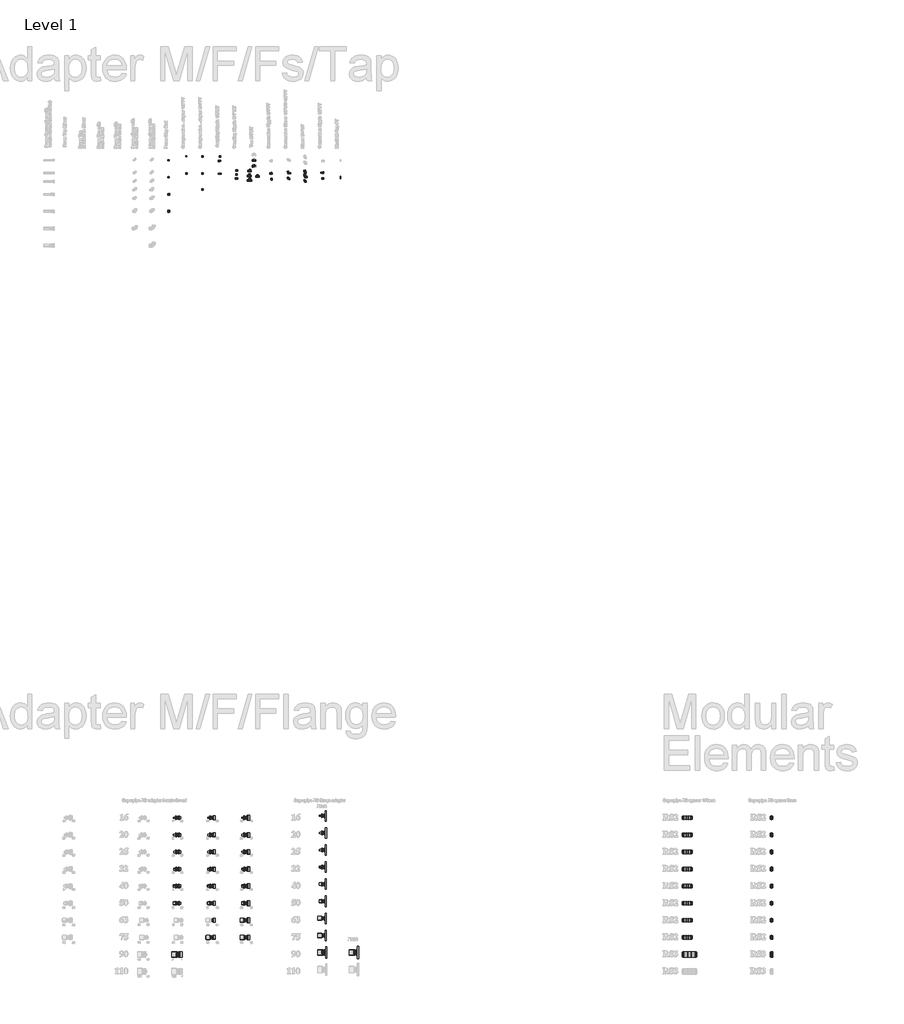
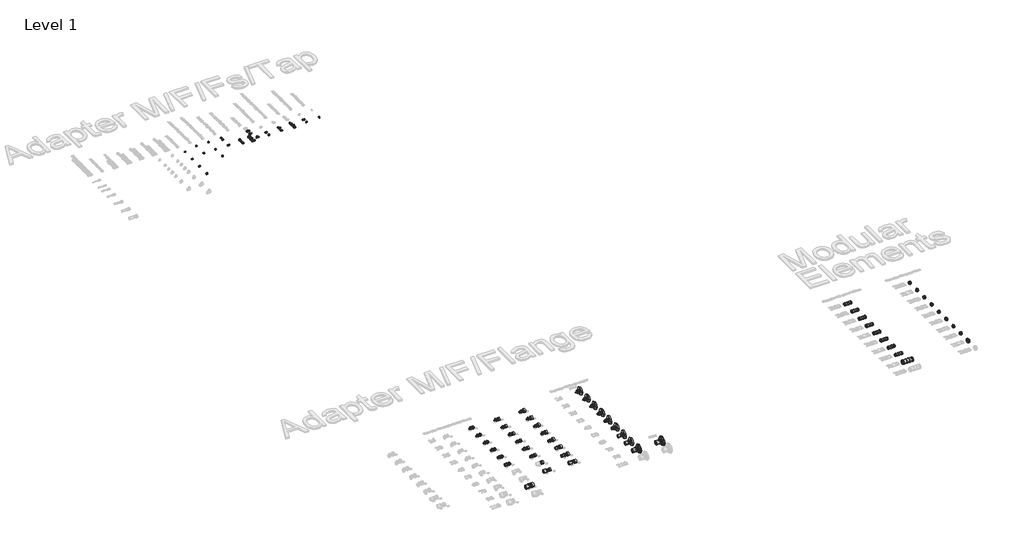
# One storey, part 6 of 57: 132 pipe fittings.
"""IFC4 building model written with IfcOpenShell, lengths in millimetres."""

from ifc_helpers import new_model, si_unit, origin, place, context, project, spatial, transform, mapped, element, save
from components import pipe_fitting_4a88b6a6, pipe_fitting_da245ea1, pipe_fitting_d80ff238, pipe_fitting_efbe42bf, pipe_fitting_8efa302d, pipe_fitting_62024e3c, pipe_fitting_ba7d6cd7, pipe_fitting_831a4182, pipe_fitting_687f7d2e, pipe_fitting_fd43bd29, pipe_fitting_230b2432, pipe_fitting_2b9a29ce, pipe_fitting_d8af90f1, pipe_fitting_8ddd92a3, pipe_fitting_2b53eb9e, pipe_fitting_a4cde8ab, pipe_fitting_0ffa7dfd, manifold_cap_ft_2143a354, rs_adapter_b4bbd465, rs_adapter_f82712ed, rs_adapter_ef84fdb0, rs_adapter_c6cd646c, rs_adapter_ed761ce0, rs_adapter_634e7d73, rs_adapter_fc67200b, rs_adapter_b700a1d7, rs_adapter_1ad0a11d, rs_female_adapter_be3e60a6, rs_female_adapter_9108f48d, rs_female_adapter_c31f11b0, rs_female_adapter_dce81887, rs_flange_a0c34e24, rs_flange_74e88712, rs_flange_21cca742, rs_spacer_67fe0fff, rs_spacer_eb34c34b, rs_spacer_c2a2605f, rs_spacer_aa593b7b, pipe_fitting_483da3ce

model = new_model("IFC4")

# Units and contexts
model_context = context("Model", 3, world=origin())
ifc_project = project(units=[si_unit("LENGTHUNIT", "METRE", prefix="MILLI")], contexts=[model_context])

# Site, building, storey
site = spatial("IfcSite", under=ifc_project)
building = spatial("IfcBuilding", under=site)
storey = spatial("IfcBuildingStorey", under=building, Name="Level 1", Elevation=27.3876384)

# Pipe fittings
placement = place(None, origin())
pipe_fitting_shape = pipe_fitting_4a88b6a6(model_context)
element("IfcPipeFitting", 1, ObjectType="SuperPipe_StopEnd_SPressPlus : SuperPipe_StopEnd_SPressPlus", at=placement, inside=storey, context=model_context, shape_type="MappedRepresentation", body=[
    mapped(pipe_fitting_shape, transform((32127.3746831, 29295.708829, 27.3876384), x_axis=(-1.0, 0.0, 0.0), y_axis=(0.0, -1.0, 0.0), z_axis=(0.0, 0.0, 1.0))),
])
pipe_fitting_2_shape = pipe_fitting_da245ea1(model_context)
element("IfcPipeFitting", 2, ObjectType="SuperPipe_StopEnd_SPressPlus : SuperPipe_StopEnd_SPressPlus", at=placement, inside=storey, context=model_context, shape_type="MappedRepresentation", body=[
    mapped(pipe_fitting_2_shape, transform((32127.3746831, 29595.708829, 27.3876384), x_axis=(-1.0, 0.0, 0.0), y_axis=(0.0, -1.0, 0.0), z_axis=(0.0, 0.0, 1.0))),
])
pipe_fitting_3_shape = pipe_fitting_d80ff238(model_context)
element("IfcPipeFitting", 3, ObjectType="SuperPipe_StopEnd_SPressPlus : SuperPipe_StopEnd_SPressPlus", at=placement, inside=storey, context=model_context, shape_type="MappedRepresentation", body=[
    mapped(pipe_fitting_3_shape, transform((32130.8746831, 29895.708829, 27.3876384), x_axis=(-1.0, 0.0, 0.0), y_axis=(0.0, -1.0, 0.0), z_axis=(0.0, 0.0, 1.0))),
])
pipe_fitting_4_shape = pipe_fitting_efbe42bf(model_context)
element("IfcPipeFitting", 4, ObjectType="SuperPipe_StopEnd_SPressPlus : SuperPipe_StopEnd_SPressPlus", at=placement, inside=storey, context=model_context, shape_type="MappedRepresentation", body=[
    mapped(pipe_fitting_4_shape, transform((32131.3746831, 30195.708829, 27.3876384), x_axis=(-1.0, 0.0, 0.0), y_axis=(0.0, -1.0, 0.0), z_axis=(0.0, 0.0, 1.0))),
])
pipe_fitting_5_shape = pipe_fitting_8efa302d(model_context)
element("IfcPipeFitting", 5, ObjectType="Coupling Nipple 1/2\"MT : Superpipe Coupling Nipple - 1/2\"MT-1/2\"MT", at=placement, inside=storey, context=model_context, shape_type="MappedRepresentation", body=[
    mapped(pipe_fitting_5_shape, transform((33041.8041997, 30260.0431886, 27.3876384), x_axis=(1.0, 0.0, 0.0), y_axis=(0.0, 1.0, 0.0), z_axis=(0.0, 0.0, 1.0))),
])
pipe_fitting_6_shape = pipe_fitting_62024e3c(model_context)
element("IfcPipeFitting", 6, ObjectType="Coupling Nipple 3/4\"MT : Superpipe Coupling Nipple - 3/4\"MT-3/4\"MT", at=placement, inside=storey, context=model_context, shape_type="MappedRepresentation", body=[
    mapped(pipe_fitting_6_shape, transform((33335.3160951, 29942.8987205, 27.3876384), x_axis=(1.0, 0.0, 0.0), y_axis=(0.0, 1.0, 0.0), z_axis=(0.0, 0.0, 1.0))),
])
element("IfcPipeFitting", 7, ObjectType="Coupling Nipple 1/2\"MT : Superpipe Coupling Nipple - 16-1/2\"MT", at=placement, inside=storey, context=model_context, shape_type="MappedRepresentation", body=[
    mapped(pipe_fitting_5_shape, transform((33041.8041997, 30183.7870562, 27.3876384), x_axis=(1.0, 0.0, 0.0), y_axis=(0.0, 0.0, -1.0), z_axis=(0.0, 1.0, 0.0))),
])
element("IfcPipeFitting", 8, ObjectType="Coupling Nipple 1/2\"MT : Superpipe Coupling Nipple - 20-1/2\"MT", at=placement, inside=storey, context=model_context, shape_type="MappedRepresentation", body=[
    mapped(pipe_fitting_5_shape, transform((33050.0023834, 29956.5969982, 27.3876384), x_axis=(1.0, 0.0, 0.0), y_axis=(0.0, 1.0, 0.0), z_axis=(0.0, 0.0, 1.0))),
])
element("IfcPipeFitting", 9, ObjectType="Coupling Nipple 3/4\"MT : Superpipe Coupling Nipple - 16-3/4\"MT", at=placement, inside=storey, context=model_context, shape_type="MappedRepresentation", body=[
    mapped(pipe_fitting_6_shape, transform((33343.4184031, 30011.9125505, 27.3876384), x_axis=(1.0, 0.0, 0.0), y_axis=(0.0, 1.0, 0.0), z_axis=(0.0, 0.0, 1.0))),
])
element("IfcPipeFitting", 10, ObjectType="Coupling Nipple 3/4\"MT : Superpipe Coupling Nipple - 20-3/4\"MT", at=placement, inside=storey, context=model_context, shape_type="MappedRepresentation", body=[
    mapped(pipe_fitting_6_shape, transform((33342.5109629, 29873.890947, 27.3876384), x_axis=(1.0, 0.0, 0.0), y_axis=(0.0, 1.0, 0.0), z_axis=(0.0, 0.0, 1.0))),
])
pipe_fitting_7_shape = pipe_fitting_ba7d6cd7(model_context)
element("IfcPipeFitting", 11, ObjectType="Conversion Nipple 3/4\"FT : Superpipe Conversion Nipple - 3/4\"MT-3/4\"FT", at=placement, inside=storey, context=model_context, shape_type="MappedRepresentation", body=[
    mapped(pipe_fitting_7_shape, transform((33949.3518929, 29862.5546879, 27.3876384), x_axis=(1.0, 0.0, 0.0), y_axis=(0.0, 1.0, 0.0), z_axis=(0.0, 0.0, 1.0))),
])
element("IfcPipeFitting", 12, ObjectType="Conversion Nipple 3/4\"FT : Superpipe Conversion Nipple - 20-3/4\"FT", at=placement, inside=storey, context=model_context, shape_type="MappedRepresentation", body=[
    mapped(pipe_fitting_7_shape, transform((33949.3518929, 29962.5546879, 27.3876384), x_axis=(1.0, 0.0, 0.0), y_axis=(0.0, 1.0, 0.0), z_axis=(0.0, 0.0, 1.0))),
])
pipe_fitting_8_shape = pipe_fitting_831a4182(model_context)
element("IfcPipeFitting", 13, ObjectType="Conversion Elbow 1/2\"MT-1/2\"FT : Superpipe Conversion Elbow - 1/2\"MT-1/2\"FT", at=placement, inside=storey, context=model_context, shape_type="MappedRepresentation", body=[
    mapped(pipe_fitting_8_shape, transform((34240.1121716, 29865.0431886, 27.3876384), x_axis=(-1.0, 0.0, 0.0), y_axis=(0.0, 1.0000000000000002, 0.0), z_axis=(0.0, 0.0, -1.0000000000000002))),
])
element("IfcPipeFitting", 14, ObjectType="Conversion Elbow 1/2\"MT-1/2\"FT : Superpipe Conversion Elbow - 20-1/2\"FT", at=placement, inside=storey, context=model_context, shape_type="MappedRepresentation", body=[
    mapped(pipe_fitting_8_shape, transform((34240.1121716, 29965.0431886, 27.3876384), x_axis=(-1.0, 0.0, 0.0), y_axis=(0.0, 1.0000000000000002, 0.0), z_axis=(0.0, 0.0, -1.0000000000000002))),
])
pipe_fitting_9_shape = pipe_fitting_687f7d2e(model_context)
element("IfcPipeFitting", 15, ObjectType="Conversion Nipple 1/2\"FT : Superpipe Conversion Nipple - 1/2\"MT -1/2\"FT", at=placement, inside=storey, context=model_context, shape_type="MappedRepresentation", body=[
    mapped(pipe_fitting_9_shape, transform((34851.8746831, 29875.0431886, 27.3876384), x_axis=(1.0, 0.0, 0.0), y_axis=(0.0, 1.0, 0.0), z_axis=(0.0, 0.0, 1.0))),
])
element("IfcPipeFitting", 16, ObjectType="Conversion Nipple 1/2\"FT : Superpipe Conversion Nipple - 20-1/2\"FT", at=placement, inside=storey, context=model_context, shape_type="MappedRepresentation", body=[
    mapped(pipe_fitting_9_shape, transform((34851.8746831, 29975.0431886, 27.3876384), x_axis=(1.0, 0.0, 0.0), y_axis=(0.0, 1.0, 0.0), z_axis=(0.0, 0.0, 1.0))),
])
pipe_fitting_10_shape = pipe_fitting_fd43bd29(model_context)
element("IfcPipeFitting", 17, ObjectType="Compression Adapter 1/2\"FT : Superpipe Compression Adapter", at=placement, inside=storey, context=model_context, shape_type="MappedRepresentation", body=[
    mapped(pipe_fitting_10_shape, transform((32440.8650131, 30264.1922591, 27.3876384), x_axis=(1.0, 0.0, 0.0), y_axis=(0.0, 1.0, 0.0), z_axis=(0.0, 0.0, 1.0))),
])
element("IfcPipeFitting", 18, ObjectType="Compression Adapter 1/2\"FT : Superpipe Compression Adapter", at=placement, inside=storey, context=model_context, shape_type="MappedRepresentation", body=[
    mapped(pipe_fitting_10_shape, transform((33015.8041997, 30183.7870562, 27.3876384), x_axis=(1.0, 0.0, 0.0), y_axis=(0.0, 0.0, -1.0), z_axis=(0.0, 1.0, 0.0))),
])
pipe_fitting_11_shape = pipe_fitting_230b2432(model_context)
element("IfcPipeFitting", 19, ObjectType="Compression Adapter 1/2\"FT : Superpipe Compression Adapter", at=placement, inside=storey, context=model_context, shape_type="MappedRepresentation", body=[
    mapped(pipe_fitting_11_shape, transform((32440.8650131, 29960.0431886, 27.3876384), x_axis=(1.0, 0.0, 0.0), y_axis=(0.0, 1.0, 0.0), z_axis=(0.0, 0.0, 1.0))),
])
element("IfcPipeFitting", 20, ObjectType="Compression Adapter 1/2\"FT : Superpipe Compression Adapter", at=placement, inside=storey, context=model_context, shape_type="MappedRepresentation", body=[
    mapped(pipe_fitting_11_shape, transform((33017.0023834, 29956.5969982, 27.3876384), x_axis=(1.0, 0.0, 0.0), y_axis=(0.0, 1.0, 0.0), z_axis=(0.0, 0.0, 1.0))),
])
element("IfcPipeFitting", 21, ObjectType="Compression Adapter 1/2\"FT : Superpipe Compression Adapter", at=placement, inside=storey, context=model_context, shape_type="MappedRepresentation", body=[
    mapped(pipe_fitting_11_shape, transform((34285.1121716, 29965.0431886, 27.3876384), x_axis=(-1.0, 0.0, 0.0), y_axis=(0.0, 1.0000000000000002, 0.0), z_axis=(0.0, 0.0, -1.0000000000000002))),
])
element("IfcPipeFitting", 22, ObjectType="Compression Adapter 1/2\"FT : Superpipe Compression Adapter", at=placement, inside=storey, context=model_context, shape_type="MappedRepresentation", body=[
    mapped(pipe_fitting_11_shape, transform((34816.6246831, 29975.0431886, 27.3876384), x_axis=(1.0, 0.0, 0.0), y_axis=(0.0, 1.0, 0.0), z_axis=(0.0, 0.0, 1.0))),
])
pipe_fitting_12_shape = pipe_fitting_2b9a29ce(model_context)
element("IfcPipeFitting", 23, ObjectType="Compression Adapter 3/4\"FT : Superpipe Compression Adapter", at=placement, inside=storey, context=model_context, shape_type="MappedRepresentation", body=[
    mapped(pipe_fitting_12_shape, transform((32723.8650131, 29679.1922591, 27.3876384), x_axis=(1.0, 0.0, 0.0), y_axis=(0.0, 1.0, 0.0), z_axis=(0.0, 0.0, 1.0))),
])
pipe_fitting_13_shape = pipe_fitting_d8af90f1(model_context)
element("IfcPipeFitting", 24, ObjectType="Compression Adapter 3/4\"FT : Superpipe Compression Adapter", at=placement, inside=storey, context=model_context, shape_type="MappedRepresentation", body=[
    mapped(pipe_fitting_13_shape, transform((32726.8746831, 30260.0431886, 27.3876384), x_axis=(1.0, 0.0, 0.0), y_axis=(0.0, 1.0, 0.0), z_axis=(0.0, 0.0, 1.0))),
])
pipe_fitting_14_shape = pipe_fitting_8ddd92a3(model_context)
element("IfcPipeFitting", 25, ObjectType="Compression Adapter 3/4\"FT : Superpipe Compression Adapter", at=placement, inside=storey, context=model_context, shape_type="MappedRepresentation", body=[
    mapped(pipe_fitting_14_shape, transform((33337.8277391, 29873.890947, 27.3876384), x_axis=(-1.0, 0.0, 0.0), y_axis=(0.0, -1.0, 0.0), z_axis=(0.0, 0.0, 1.0))),
])
element("IfcPipeFitting", 26, ObjectType="Compression Adapter 3/4\"FT : Superpipe Compression Adapter", at=placement, inside=storey, context=model_context, shape_type="MappedRepresentation", body=[
    mapped(pipe_fitting_14_shape, transform((33551.8160614, 30002.7497821, 27.3876384), x_axis=(-1.0, 0.0, 0.0), y_axis=(0.0, -1.0, 0.0), z_axis=(0.0, 0.0, 1.0))),
])
element("IfcPipeFitting", 27, ObjectType="Compression Adapter 3/4\"FT : Superpipe Compression Adapter", at=placement, inside=storey, context=model_context, shape_type="MappedRepresentation", body=[
    mapped(pipe_fitting_14_shape, transform((33547.9048223, 29917.7300897, 27.3876384), x_axis=(-1.0, 0.0, 0.0), y_axis=(0.0, -1.0, 0.0), z_axis=(0.0, 0.0, 1.0))),
])
element("IfcPipeFitting", 28, ObjectType="Compression Adapter 3/4\"FT : Superpipe Compression Adapter", at=placement, inside=storey, context=model_context, shape_type="MappedRepresentation", body=[
    mapped(pipe_fitting_14_shape, transform((33549.9490576, 29838.9596168, 27.3876384), x_axis=(-1.0, 0.0, 0.0), y_axis=(0.0, -1.0, 0.0), z_axis=(0.0, 0.0, 1.0))),
])
element("IfcPipeFitting", 29, ObjectType="Compression Adapter 3/4\"FT : Superpipe Compression Adapter", at=placement, inside=storey, context=model_context, shape_type="MappedRepresentation", body=[
    mapped(pipe_fitting_14_shape, transform((33941.3518929, 29962.5546879, 27.3876384), x_axis=(-1.0, 0.0, 0.0), y_axis=(0.0, -1.0, 0.0), z_axis=(0.0, 0.0, 1.0))),
])
pipe_fitting_15_shape = pipe_fitting_2b53eb9e(model_context)
element("IfcPipeFitting", 30, ObjectType="Compression Adapter 3/4\"FT : Superpipe Compression Adapter", at=placement, inside=storey, context=model_context, shape_type="MappedRepresentation", body=[
    mapped(pipe_fitting_15_shape, transform((33338.7351792, 30011.9125505, 27.3876384), x_axis=(-1.0, 0.0, 0.0), y_axis=(0.0, -1.0, 0.0), z_axis=(0.0, 0.0, 1.0))),
])
element("IfcPipeFitting", 31, ObjectType="Compression Adapter 3/4\"FT : Superpipe Compression Adapter", at=placement, inside=storey, context=model_context, shape_type="MappedRepresentation", body=[
    mapped(pipe_fitting_15_shape, transform((33628.4713412, 30189.9764499, 27.3876384), x_axis=(-1.0, 0.0, 0.0), y_axis=(0.0, -1.0, 0.0), z_axis=(0.0, 0.0, 1.0))),
])
element("IfcPipeFitting", 32, ObjectType="Compression Adapter 3/4\"FT : Superpipe Compression Adapter", at=placement, inside=storey, context=model_context, shape_type="MappedRepresentation", body=[
    mapped(pipe_fitting_15_shape, transform((33628.4713412, 30089.9764499, 27.3876384), x_axis=(-1.0, 0.0, 0.0), y_axis=(0.0, -1.0, 0.0), z_axis=(0.0, 0.0, 1.0))),
])
pipe_fitting_16_shape = pipe_fitting_a4cde8ab(model_context)
element("IfcPipeFitting", 33, ObjectType="Compression Adapter 3/4\"FT : Superpipe Compression Adapter", at=placement, inside=storey, context=model_context, shape_type="MappedRepresentation", body=[
    mapped(pipe_fitting_16_shape, transform((32723.8650131, 29960.0431886, 27.3876384), x_axis=(1.0, 0.0, 0.0), y_axis=(0.0, 1.0, 0.0), z_axis=(0.0, 0.0, 1.0))),
])
element("IfcPipeFitting", 34, ObjectType="Compression Adapter 3/4\"FT : Superpipe Compression Adapter", at=placement, inside=storey, context=model_context, shape_type="MappedRepresentation", body=[
    mapped(pipe_fitting_16_shape, transform((33563.5264183, 29933.1259138, 27.3876384), x_axis=(0.0, 1.0, 0.0), y_axis=(-1.0, 0.0, 0.0), z_axis=(0.0, 0.0, 1.0))),
])
element("IfcPipeFitting", 35, ObjectType="Compression Adapter 3/4\"FT : Superpipe Compression Adapter", at=placement, inside=storey, context=model_context, shape_type="MappedRepresentation", body=[
    mapped(pipe_fitting_16_shape, transform((33581.1922496, 29838.9596168, 27.3876384), x_axis=(1.0, 0.0, 0.0), y_axis=(0.0, 1.0, 0.0), z_axis=(0.0, 0.0, 1.0))),
])
element("IfcPipeFitting", 36, ObjectType="Compression Adapter 3/4\"FT : Superpipe Compression Adapter", at=placement, inside=storey, context=model_context, shape_type="MappedRepresentation", body=[
    mapped(pipe_fitting_16_shape, transform((33565.5706536, 29854.3554409, 27.3876384), x_axis=(0.0, 1.0, 0.0), y_axis=(-1.0, 0.0, 0.0), z_axis=(0.0, 0.0, 1.0))),
])
element("IfcPipeFitting", 37, ObjectType="Compression Adapter 3/4\"FT : Superpipe Compression Adapter", at=placement, inside=storey, context=model_context, shape_type="MappedRepresentation", body=[
    mapped(pipe_fitting_16_shape, transform((34531.8746831, 29995.0431886, 27.3876384), x_axis=(0.0, 1.0, 0.0), y_axis=(-1.0, 0.0, 0.0), z_axis=(0.0, 0.0, 1.0))),
])
element("IfcPipeFitting", 38, ObjectType="Compression Adapter 3/4\"FT : Superpipe Compression Adapter", at=placement, inside=storey, context=model_context, shape_type="MappedRepresentation", body=[
    mapped(pipe_fitting_16_shape, transform((34531.8746831, 29921.1316553, 27.3876384), x_axis=(0.0, 1.0, 0.0), y_axis=(-1.0, 0.0, 0.0), z_axis=(0.0, 0.0, 1.0))),
])
element("IfcPipeFitting", 39, ObjectType="Compression Adapter 3/4\"FT : Superpipe Compression Adapter", at=placement, inside=storey, context=model_context, shape_type="MappedRepresentation", body=[
    mapped(pipe_fitting_16_shape, transform((34551.8345617, 29901.1316553, 27.3876384), x_axis=(1.0, 0.0, 0.0), y_axis=(0.0, 1.0, 0.0), z_axis=(0.0, 0.0, 1.0))),
])
pipe_fitting_17_shape = pipe_fitting_0ffa7dfd(model_context)
element("IfcPipeFitting", 40, ObjectType="Elbow 3/4\" MT : Superpipe Elbow - 3/4\"MT-3/4\"MT", at=placement, inside=storey, context=model_context, shape_type="MappedRepresentation", body=[
    mapped(pipe_fitting_17_shape, transform((34531.8746831, 29822.2788614, 27.3876384), x_axis=(1.0, 0.0, 0.0), y_axis=(0.0, 1.0, 0.0), z_axis=(0.0, 0.0, 1.0))),
])
element("IfcPipeFitting", 41, ObjectType="Elbow 3/4\" MT : Superpipe Elbow - 20-3/4\"MT", at=placement, inside=storey, context=model_context, shape_type="MappedRepresentation", body=[
    mapped(pipe_fitting_17_shape, transform((34531.8746831, 29975.0431886, 27.3876384), x_axis=(1.0, 0.0, 0.0), y_axis=(0.0, 1.0, 0.0), z_axis=(0.0, 0.0, 1.0))),
])
element("IfcPipeFitting", 42, ObjectType="Elbow 3/4\" MT : Superpipe Elbow - 20-20", at=placement, inside=storey, context=model_context, shape_type="MappedRepresentation", body=[
    mapped(pipe_fitting_17_shape, transform((34531.8746831, 29901.1316553, 27.3876384), x_axis=(1.0, 0.0, 0.0), y_axis=(0.0, 1.0, 0.0), z_axis=(0.0, 0.0, 1.0))),
])
manifold_cap_ft_shape = manifold_cap_ft_2143a354(model_context)
element("IfcPipeFitting", 43, ObjectType="Manifold Cap FT : Superpipe Manifold Cap With Seal- 1\" FT", at=placement, inside=storey, context=model_context, shape_type="MappedRepresentation", body=[
    mapped(manifold_cap_ft_shape, transform((35151.8746831, 29890.0431886, 27.3876384), x_axis=(1.0, 0.0, 0.0), y_axis=(0.0, 1.0, 0.0), z_axis=(0.0, 0.0, 1.0))),
])
rs_adapter_shape = rs_adapter_b4bbd465(model_context)
element("IfcPipeFitting", 44, ObjectType="RS Adapter : Superpipe RS Press Adapter", at=placement, inside=storey, context=model_context, shape_type="MappedRepresentation", body=[
    mapped(rs_adapter_shape, transform((34850.1649783, 18681.0652943, 27.3876384), x_axis=(-1.0000000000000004, 0.0, 0.0), y_axis=(0.0, 1.0000000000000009, 0.0), z_axis=(0.0, 0.0, -1.0000000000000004))),
])
element("IfcPipeFitting", 45, ObjectType="RS Adapter : Superpipe RS Press Adapter", at=placement, inside=storey, context=model_context, shape_type="MappedRepresentation", body=[
    mapped(rs_adapter_shape, transform((32288.6568613, 18646.8081159, 27.3876384), x_axis=(-1.0000000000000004, 0.0, 0.0), y_axis=(0.0, 1.0000000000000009, 0.0), z_axis=(0.0, 0.0, -1.0000000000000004))),
])
element("IfcPipeFitting", 46, ObjectType="RS Adapter : Superpipe RS Press Adapter", at=placement, inside=storey, context=model_context, shape_type="MappedRepresentation", body=[
    mapped(rs_adapter_shape, transform((32888.6568613, 18646.8081159, 27.3876384), x_axis=(-1.0000000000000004, 0.0, 0.0), y_axis=(0.0, 1.0000000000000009, 0.0), z_axis=(0.0, 0.0, -1.0000000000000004))),
])
element("IfcPipeFitting", 47, ObjectType="RS Adapter : Superpipe RS Press Adapter", at=placement, inside=storey, context=model_context, shape_type="MappedRepresentation", body=[
    mapped(rs_adapter_shape, transform((33488.6568613, 18646.8081159, 27.3876384), x_axis=(-1.0000000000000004, 0.0, 0.0), y_axis=(0.0, 1.0000000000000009, 0.0), z_axis=(0.0, 0.0, -1.0000000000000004))),
])
rs_adapter_2_shape = rs_adapter_f82712ed(model_context)
element("IfcPipeFitting", 48, ObjectType="RS Adapter : Superpipe RS Press Adapter", at=placement, inside=storey, context=model_context, shape_type="MappedRepresentation", body=[
    mapped(rs_adapter_2_shape, transform((34852.157769, 18381.0652943, 27.3876384), x_axis=(-1.0000000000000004, 0.0, 0.0), y_axis=(0.0, 1.0000000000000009, 0.0), z_axis=(0.0, 0.0, -1.0000000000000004))),
])
element("IfcPipeFitting", 49, ObjectType="RS Adapter : Superpipe RS Press Adapter", at=placement, inside=storey, context=model_context, shape_type="MappedRepresentation", body=[
    mapped(rs_adapter_2_shape, transform((32288.6568613, 18346.8081159, 27.3876384), x_axis=(-1.0000000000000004, 0.0, 0.0), y_axis=(0.0, 1.0000000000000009, 0.0), z_axis=(0.0, 0.0, -1.0000000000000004))),
])
element("IfcPipeFitting", 50, ObjectType="RS Adapter : Superpipe RS Press Adapter", at=placement, inside=storey, context=model_context, shape_type="MappedRepresentation", body=[
    mapped(rs_adapter_2_shape, transform((32888.6568613, 18346.8081159, 27.3876384), x_axis=(-1.0000000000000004, 0.0, 0.0), y_axis=(0.0, 1.0000000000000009, 0.0), z_axis=(0.0, 0.0, -1.0000000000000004))),
])
element("IfcPipeFitting", 51, ObjectType="RS Adapter : Superpipe RS Press Adapter", at=placement, inside=storey, context=model_context, shape_type="MappedRepresentation", body=[
    mapped(rs_adapter_2_shape, transform((33488.6568613, 18346.8081159, 27.3876384), x_axis=(-1.0000000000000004, 0.0, 0.0), y_axis=(0.0, 1.0000000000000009, 0.0), z_axis=(0.0, 0.0, -1.0000000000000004))),
])
rs_adapter_3_shape = rs_adapter_ef84fdb0(model_context)
element("IfcPipeFitting", 52, ObjectType="RS Adapter : Superpipe RS Press Adapter", at=placement, inside=storey, context=model_context, shape_type="MappedRepresentation", body=[
    mapped(rs_adapter_3_shape, transform((34850.1649783, 18081.0652943, 27.3876384), x_axis=(-1.0000000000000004, 0.0, 0.0), y_axis=(0.0, 1.0000000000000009, 0.0), z_axis=(0.0, 0.0, -1.0000000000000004))),
])
element("IfcPipeFitting", 53, ObjectType="RS Adapter : Superpipe RS Press Adapter", at=placement, inside=storey, context=model_context, shape_type="MappedRepresentation", body=[
    mapped(rs_adapter_3_shape, transform((32288.6568613, 18046.8081159, 27.3876384), x_axis=(-1.0000000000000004, 0.0, 0.0), y_axis=(0.0, 1.0000000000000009, 0.0), z_axis=(0.0, 0.0, -1.0000000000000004))),
])
element("IfcPipeFitting", 54, ObjectType="RS Adapter : Superpipe RS Press Adapter", at=placement, inside=storey, context=model_context, shape_type="MappedRepresentation", body=[
    mapped(rs_adapter_3_shape, transform((32888.6568613, 18046.8081159, 27.3876384), x_axis=(-1.0000000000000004, 0.0, 0.0), y_axis=(0.0, 1.0000000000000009, 0.0), z_axis=(0.0, 0.0, -1.0000000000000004))),
])
element("IfcPipeFitting", 55, ObjectType="RS Adapter : Superpipe RS Press Adapter", at=placement, inside=storey, context=model_context, shape_type="MappedRepresentation", body=[
    mapped(rs_adapter_3_shape, transform((33488.6568613, 18046.8081159, 27.3876384), x_axis=(-1.0000000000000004, 0.0, 0.0), y_axis=(0.0, 1.0000000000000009, 0.0), z_axis=(0.0, 0.0, -1.0000000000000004))),
])
rs_adapter_4_shape = rs_adapter_c6cd646c(model_context)
element("IfcPipeFitting", 56, ObjectType="RS Adapter : Superpipe RS Press Adapter", at=placement, inside=storey, context=model_context, shape_type="MappedRepresentation", body=[
    mapped(rs_adapter_4_shape, transform((32296.6568613, 16246.8081159, 27.3876384), x_axis=(-1.0000000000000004, 0.0, 0.0), y_axis=(0.0, 1.0000000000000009, 0.0), z_axis=(0.0, 0.0, -1.0000000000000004))),
])
element("IfcPipeFitting", 57, ObjectType="RS Adapter : Superpipe RS Press Adapter", at=placement, inside=storey, context=model_context, shape_type="MappedRepresentation", body=[
    mapped(rs_adapter_4_shape, transform((34858.1649783, 16281.0652943, 27.3876384), x_axis=(-1.0000000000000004, 0.0, 0.0), y_axis=(0.0, 1.0000000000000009, 0.0), z_axis=(0.0, 0.0, -1.0000000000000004))),
])
element("IfcPipeFitting", 58, ObjectType="RS Adapter : Superpipe RS Press Adapter", at=placement, inside=storey, context=model_context, shape_type="MappedRepresentation", body=[
    mapped(rs_adapter_4_shape, transform((35414.1300252, 16281.0652943, 27.3876384), x_axis=(-1.0000000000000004, 0.0, 0.0), y_axis=(0.0, 1.0000000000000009, 0.0), z_axis=(0.0, 0.0, -1.0000000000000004))),
])
rs_adapter_5_shape = rs_adapter_ed761ce0(model_context)
element("IfcPipeFitting", 59, ObjectType="RS Adapter : Superpipe RS Press Adapter", at=placement, inside=storey, context=model_context, shape_type="MappedRepresentation", body=[
    mapped(rs_adapter_5_shape, transform((34850.1649783, 17781.0652943, 27.3876384), x_axis=(-1.0000000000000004, 0.0, 0.0), y_axis=(0.0, 1.0000000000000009, 0.0), z_axis=(0.0, 0.0, -1.0000000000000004))),
])
element("IfcPipeFitting", 60, ObjectType="RS Adapter : Superpipe RS Press Adapter", at=placement, inside=storey, context=model_context, shape_type="MappedRepresentation", body=[
    mapped(rs_adapter_5_shape, transform((32288.6568613, 17746.8081159, 27.3876384), x_axis=(-1.0000000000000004, 0.0, 0.0), y_axis=(0.0, 1.0000000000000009, 0.0), z_axis=(0.0, 0.0, -1.0000000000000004))),
])
element("IfcPipeFitting", 61, ObjectType="RS Adapter : Superpipe RS Press Adapter", at=placement, inside=storey, context=model_context, shape_type="MappedRepresentation", body=[
    mapped(rs_adapter_5_shape, transform((32888.6568613, 17746.8081159, 27.3876384), x_axis=(-1.0000000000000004, 0.0, 0.0), y_axis=(0.0, 1.0000000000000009, 0.0), z_axis=(0.0, 0.0, -1.0000000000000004))),
])
element("IfcPipeFitting", 62, ObjectType="RS Adapter : Superpipe RS Press Adapter", at=placement, inside=storey, context=model_context, shape_type="MappedRepresentation", body=[
    mapped(rs_adapter_5_shape, transform((33488.6568613, 17746.8081159, 27.3876384), x_axis=(-1.0000000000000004, 0.0, 0.0), y_axis=(0.0, 1.0000000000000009, 0.0), z_axis=(0.0, 0.0, -1.0000000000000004))),
])
rs_adapter_6_shape = rs_adapter_634e7d73(model_context)
element("IfcPipeFitting", 63, ObjectType="RS Adapter : Superpipe RS Press Adapter", at=placement, inside=storey, context=model_context, shape_type="MappedRepresentation", body=[
    mapped(rs_adapter_6_shape, transform((34850.1649783, 17481.0652943, 27.3876384), x_axis=(-1.0000000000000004, 0.0, 0.0), y_axis=(0.0, 1.0000000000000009, 0.0), z_axis=(0.0, 0.0, -1.0000000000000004))),
])
element("IfcPipeFitting", 64, ObjectType="RS Adapter : Superpipe RS Press Adapter", at=placement, inside=storey, context=model_context, shape_type="MappedRepresentation", body=[
    mapped(rs_adapter_6_shape, transform((32288.6568613, 17446.8081159, 27.3876384), x_axis=(-1.0000000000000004, 0.0, 0.0), y_axis=(0.0, 1.0000000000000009, 0.0), z_axis=(0.0, 0.0, -1.0000000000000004))),
])
element("IfcPipeFitting", 65, ObjectType="RS Adapter : Superpipe RS Press Adapter", at=placement, inside=storey, context=model_context, shape_type="MappedRepresentation", body=[
    mapped(rs_adapter_6_shape, transform((32888.6568613, 17446.8081159, 27.3876384), x_axis=(-1.0000000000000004, 0.0, 0.0), y_axis=(0.0, 1.0000000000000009, 0.0), z_axis=(0.0, 0.0, -1.0000000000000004))),
])
element("IfcPipeFitting", 66, ObjectType="RS Adapter : Superpipe RS Press Adapter", at=placement, inside=storey, context=model_context, shape_type="MappedRepresentation", body=[
    mapped(rs_adapter_6_shape, transform((33488.6568613, 17446.8081159, 27.3876384), x_axis=(-1.0000000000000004, 0.0, 0.0), y_axis=(0.0, 1.0000000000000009, 0.0), z_axis=(0.0, 0.0, -1.0000000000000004))),
])
rs_adapter_7_shape = rs_adapter_fc67200b(model_context)
element("IfcPipeFitting", 67, ObjectType="RS Adapter : Superpipe RS Press Adapter", at=placement, inside=storey, context=model_context, shape_type="MappedRepresentation", body=[
    mapped(rs_adapter_7_shape, transform((34850.1649783, 17181.0652943, 27.3876384), x_axis=(-1.0000000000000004, 0.0, 0.0), y_axis=(0.0, 1.0000000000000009, 0.0), z_axis=(0.0, 0.0, -1.0000000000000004))),
])
element("IfcPipeFitting", 68, ObjectType="RS Adapter : Superpipe RS Press Adapter", at=placement, inside=storey, context=model_context, shape_type="MappedRepresentation", body=[
    mapped(rs_adapter_7_shape, transform((32288.6568613, 17146.8081159, 27.3876384), x_axis=(-1.0000000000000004, 0.0, 0.0), y_axis=(0.0, 1.0000000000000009, 0.0), z_axis=(0.0, 0.0, -1.0000000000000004))),
])
element("IfcPipeFitting", 69, ObjectType="RS Adapter : Superpipe RS Press Adapter", at=placement, inside=storey, context=model_context, shape_type="MappedRepresentation", body=[
    mapped(rs_adapter_7_shape, transform((32888.6568613, 17146.8081159, 27.3876384), x_axis=(-1.0000000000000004, 0.0, 0.0), y_axis=(0.0, 1.0000000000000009, 0.0), z_axis=(0.0, 0.0, -1.0000000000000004))),
])
element("IfcPipeFitting", 70, ObjectType="RS Adapter : Superpipe RS Press Adapter", at=placement, inside=storey, context=model_context, shape_type="MappedRepresentation", body=[
    mapped(rs_adapter_7_shape, transform((33488.6568613, 17146.8081159, 27.3876384), x_axis=(-1.0000000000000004, 0.0, 0.0), y_axis=(0.0, 1.0000000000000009, 0.0), z_axis=(0.0, 0.0, -1.0000000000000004))),
])
rs_adapter_8_shape = rs_adapter_b700a1d7(model_context)
element("IfcPipeFitting", 71, ObjectType="RS Adapter : Superpipe RS Press Adapter", at=placement, inside=storey, context=model_context, shape_type="MappedRepresentation", body=[
    mapped(rs_adapter_8_shape, transform((34850.1649783, 16581.0652943, 27.3876384), x_axis=(-1.0000000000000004, 0.0, 0.0), y_axis=(0.0, 1.0000000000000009, 0.0), z_axis=(0.0, 0.0, -1.0000000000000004))),
])
element("IfcPipeFitting", 72, ObjectType="RS Adapter : Superpipe RS Press Adapter", at=placement, inside=storey, context=model_context, shape_type="MappedRepresentation", body=[
    mapped(rs_adapter_8_shape, transform((32888.6568613, 16546.8081159, 27.3876384), x_axis=(-1.0000000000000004, 0.0, 0.0), y_axis=(0.0, 1.0000000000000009, 0.0), z_axis=(0.0, 0.0, -1.0000000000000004))),
])
element("IfcPipeFitting", 73, ObjectType="RS Adapter : Superpipe RS Press Adapter", at=placement, inside=storey, context=model_context, shape_type="MappedRepresentation", body=[
    mapped(rs_adapter_8_shape, transform((33488.6568613, 16546.8081159, 27.3876384), x_axis=(-1.0000000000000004, 0.0, 0.0), y_axis=(0.0, 1.0000000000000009, 0.0), z_axis=(0.0, 0.0, -1.0000000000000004))),
])
rs_adapter_9_shape = rs_adapter_1ad0a11d(model_context)
element("IfcPipeFitting", 74, ObjectType="RS Adapter : Superpipe RS Press Adapter", at=placement, inside=storey, context=model_context, shape_type="MappedRepresentation", body=[
    mapped(rs_adapter_9_shape, transform((34850.1649783, 16881.0652943, 27.3876384), x_axis=(-1.0000000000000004, 0.0, 0.0), y_axis=(0.0, 1.0000000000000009, 0.0), z_axis=(0.0, 0.0, -1.0000000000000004))),
])
element("IfcPipeFitting", 75, ObjectType="RS Adapter : Superpipe RS Press Adapter", at=placement, inside=storey, context=model_context, shape_type="MappedRepresentation", body=[
    mapped(rs_adapter_9_shape, transform((33488.6568613, 16846.8081159, 27.3876384), x_axis=(-1.0000000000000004, 0.0, 0.0), y_axis=(0.0, 1.0000000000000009, 0.0), z_axis=(0.0, 0.0, -1.0000000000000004))),
])
rs_female_adapter_shape = rs_female_adapter_be3e60a6(model_context)
element("IfcPipeFitting", 76, ObjectType="RS Female Adapter : Superpipe RS2 FT Adapter 1”", at=placement, inside=storey, context=model_context, shape_type="MappedRepresentation", body=[
    mapped(rs_female_adapter_shape, transform((32306.6568613, 18646.8081159, 27.3876384), x_axis=(1.0, 0.0, 0.0), y_axis=(0.0, -1.0, 0.0), z_axis=(0.0, 0.0, -1.0))),
])
element("IfcPipeFitting", 77, ObjectType="RS Female Adapter : Superpipe RS2 FT Adapter 1”", at=placement, inside=storey, context=model_context, shape_type="MappedRepresentation", body=[
    mapped(rs_female_adapter_shape, transform((32306.6568613, 18346.8081159, 27.3876384), x_axis=(1.0, 0.0, 0.0), y_axis=(0.0, -1.0, 0.0), z_axis=(0.0, 0.0, -1.0))),
])
element("IfcPipeFitting", 78, ObjectType="RS Female Adapter : Superpipe RS2 FT Adapter 1”", at=placement, inside=storey, context=model_context, shape_type="MappedRepresentation", body=[
    mapped(rs_female_adapter_shape, transform((32306.6568613, 18046.8081159, 27.3876384), x_axis=(1.0, 0.0, 0.0), y_axis=(0.0, -1.0, 0.0), z_axis=(0.0, 0.0, -1.0))),
])
element("IfcPipeFitting", 79, ObjectType="RS Female Adapter : Superpipe RS2 FT Adapter 1”", at=placement, inside=storey, context=model_context, shape_type="MappedRepresentation", body=[
    mapped(rs_female_adapter_shape, transform((32306.6568613, 17746.8081159, 27.3876384), x_axis=(1.0, 0.0, 0.0), y_axis=(0.0, -1.0, 0.0), z_axis=(0.0, 0.0, -1.0))),
])
element("IfcPipeFitting", 80, ObjectType="RS Female Adapter : Superpipe RS2 FT Adapter 1”", at=placement, inside=storey, context=model_context, shape_type="MappedRepresentation", body=[
    mapped(rs_female_adapter_shape, transform((32306.6568613, 17446.8081159, 27.3876384), x_axis=(1.0, 0.0, 0.0), y_axis=(0.0, -1.0, 0.0), z_axis=(0.0, 0.0, -1.0))),
])
element("IfcPipeFitting", 81, ObjectType="RS Female Adapter : Superpipe RS2 FT Adapter 1”", at=placement, inside=storey, context=model_context, shape_type="MappedRepresentation", body=[
    mapped(rs_female_adapter_shape, transform((32306.6568613, 17146.8081159, 27.3876384), x_axis=(1.0, 0.0, 0.0), y_axis=(0.0, -1.0, 0.0), z_axis=(0.0, 0.0, -1.0))),
])
rs_female_adapter_2_shape = rs_female_adapter_9108f48d(model_context)
element("IfcPipeFitting", 82, ObjectType="RS Female Adapter : Superpipe RS2 FT Adapter 2”", at=placement, inside=storey, context=model_context, shape_type="MappedRepresentation", body=[
    mapped(rs_female_adapter_2_shape, transform((32906.6568613, 18346.8081159, 27.3876384), x_axis=(1.0, 0.0, 0.0), y_axis=(0.0, -1.0, 0.0), z_axis=(0.0, 0.0, -1.0))),
])
element("IfcPipeFitting", 83, ObjectType="RS Female Adapter : Superpipe RS2 FT Adapter 2”", at=placement, inside=storey, context=model_context, shape_type="MappedRepresentation", body=[
    mapped(rs_female_adapter_2_shape, transform((32906.6568613, 18046.8081159, 27.3876384), x_axis=(1.0, 0.0, 0.0), y_axis=(0.0, -1.0, 0.0), z_axis=(0.0, 0.0, -1.0))),
])
element("IfcPipeFitting", 84, ObjectType="RS Female Adapter : Superpipe RS2 FT Adapter 2”", at=placement, inside=storey, context=model_context, shape_type="MappedRepresentation", body=[
    mapped(rs_female_adapter_2_shape, transform((32906.6568613, 17746.8081159, 27.3876384), x_axis=(1.0, 0.0, 0.0), y_axis=(0.0, -1.0, 0.0), z_axis=(0.0, 0.0, -1.0))),
])
element("IfcPipeFitting", 85, ObjectType="RS Female Adapter : Superpipe RS2 FT Adapter 2”", at=placement, inside=storey, context=model_context, shape_type="MappedRepresentation", body=[
    mapped(rs_female_adapter_2_shape, transform((32906.6568613, 17446.8081159, 27.3876384), x_axis=(1.0, 0.0, 0.0), y_axis=(0.0, -1.0, 0.0), z_axis=(0.0, 0.0, -1.0))),
])
element("IfcPipeFitting", 86, ObjectType="RS Female Adapter : Superpipe RS2 FT Adapter 2”", at=placement, inside=storey, context=model_context, shape_type="MappedRepresentation", body=[
    mapped(rs_female_adapter_2_shape, transform((32906.6568613, 17146.8081159, 27.3876384), x_axis=(1.0, 0.0, 0.0), y_axis=(0.0, -1.0, 0.0), z_axis=(0.0, 0.0, -1.0))),
])
element("IfcPipeFitting", 87, ObjectType="RS Female Adapter : Superpipe RS2 FT Adapter 2”", at=placement, inside=storey, context=model_context, shape_type="MappedRepresentation", body=[
    mapped(rs_female_adapter_2_shape, transform((32906.6568613, 16846.8081159, 27.3876384), x_axis=(1.0, 0.0, 0.0), y_axis=(0.0, -1.0, 0.0), z_axis=(0.0, 0.0, -1.0))),
])
element("IfcPipeFitting", 88, ObjectType="RS Female Adapter : Superpipe RS2 FT Adapter 2”", at=placement, inside=storey, context=model_context, shape_type="MappedRepresentation", body=[
    mapped(rs_female_adapter_2_shape, transform((32906.6568613, 16546.8081159, 27.3876384), x_axis=(1.0, 0.0, 0.0), y_axis=(0.0, -1.0, 0.0), z_axis=(0.0, 0.0, -1.0))),
])
element("IfcPipeFitting", 89, ObjectType="RS Female Adapter : Superpipe RS2 FT Adapter 2”", at=placement, inside=storey, context=model_context, shape_type="MappedRepresentation", body=[
    mapped(rs_female_adapter_2_shape, transform((32906.6568613, 18646.8081159, 27.3876384), x_axis=(1.0, 0.0, 0.0), y_axis=(0.0, -1.0, 0.0), z_axis=(0.0, 0.0, -1.0))),
])
rs_female_adapter_3_shape = rs_female_adapter_c31f11b0(model_context)
element("IfcPipeFitting", 90, ObjectType="RS Female Adapter : Superpipe RS2 FT Adabter 2½”", at=placement, inside=storey, context=model_context, shape_type="MappedRepresentation", body=[
    mapped(rs_female_adapter_3_shape, transform((33506.6568613, 18646.8081159, 27.3876384), x_axis=(1.0, 0.0, 0.0), y_axis=(0.0, -1.0, 0.0), z_axis=(0.0, 0.0, -1.0))),
])
element("IfcPipeFitting", 91, ObjectType="RS Female Adapter : Superpipe RS2 FT Adabter 2½”", at=placement, inside=storey, context=model_context, shape_type="MappedRepresentation", body=[
    mapped(rs_female_adapter_3_shape, transform((33506.6568613, 18346.8081159, 27.3876384), x_axis=(1.0, 0.0, 0.0), y_axis=(0.0, -1.0, 0.0), z_axis=(0.0, 0.0, -1.0))),
])
element("IfcPipeFitting", 92, ObjectType="RS Female Adapter : Superpipe RS2 FT Adabter 2½”", at=placement, inside=storey, context=model_context, shape_type="MappedRepresentation", body=[
    mapped(rs_female_adapter_3_shape, transform((33506.6568613, 18046.8081159, 27.3876384), x_axis=(1.0, 0.0, 0.0), y_axis=(0.0, -1.0, 0.0), z_axis=(0.0, 0.0, -1.0))),
])
element("IfcPipeFitting", 93, ObjectType="RS Female Adapter : Superpipe RS2 FT Adabter 2½”", at=placement, inside=storey, context=model_context, shape_type="MappedRepresentation", body=[
    mapped(rs_female_adapter_3_shape, transform((33506.6568613, 17746.8081159, 27.3876384), x_axis=(1.0, 0.0, 0.0), y_axis=(0.0, -1.0, 0.0), z_axis=(0.0, 0.0, -1.0))),
])
element("IfcPipeFitting", 94, ObjectType="RS Female Adapter : Superpipe RS2 FT Adabter 2½”", at=placement, inside=storey, context=model_context, shape_type="MappedRepresentation", body=[
    mapped(rs_female_adapter_3_shape, transform((33506.6568613, 17446.8081159, 27.3876384), x_axis=(1.0, 0.0, 0.0), y_axis=(0.0, -1.0, 0.0), z_axis=(0.0, 0.0, -1.0))),
])
element("IfcPipeFitting", 95, ObjectType="RS Female Adapter : Superpipe RS2 FT Adabter 2½”", at=placement, inside=storey, context=model_context, shape_type="MappedRepresentation", body=[
    mapped(rs_female_adapter_3_shape, transform((33506.6568613, 17146.8081159, 27.3876384), x_axis=(1.0, 0.0, 0.0), y_axis=(0.0, -1.0, 0.0), z_axis=(0.0, 0.0, -1.0))),
])
element("IfcPipeFitting", 96, ObjectType="RS Female Adapter : Superpipe RS2 FT Adabter 2½”", at=placement, inside=storey, context=model_context, shape_type="MappedRepresentation", body=[
    mapped(rs_female_adapter_3_shape, transform((33506.6568613, 16846.8081159, 27.3876384), x_axis=(1.0, 0.0, 0.0), y_axis=(0.0, -1.0, 0.0), z_axis=(0.0, 0.0, -1.0))),
])
element("IfcPipeFitting", 97, ObjectType="RS Female Adapter : Superpipe RS2 FT Adabter 2½”", at=placement, inside=storey, context=model_context, shape_type="MappedRepresentation", body=[
    mapped(rs_female_adapter_3_shape, transform((33506.6568613, 16546.8081159, 27.3876384), x_axis=(1.0, 0.0, 0.0), y_axis=(0.0, -1.0, 0.0), z_axis=(0.0, 0.0, -1.0))),
])
rs_female_adapter_4_shape = rs_female_adapter_dce81887(model_context)
element("IfcPipeFitting", 98, ObjectType="RS Female Adapter : Superpipe RS3 FT Adapter 3”", at=placement, inside=storey, context=model_context, shape_type="MappedRepresentation", body=[
    mapped(rs_female_adapter_4_shape, transform((32314.6568613, 16246.8081159, 27.3876384), x_axis=(1.0, 0.0, 0.0), y_axis=(0.0, -1.0, 0.0), z_axis=(0.0, 0.0, -1.0))),
])
rs_flange_shape = rs_flange_a0c34e24(model_context)
element("IfcPipeFitting", 99, ObjectType="RS Flange : Superpipe Flange Adapter - RS3 DN80 (PN16)", at=placement, inside=storey, context=model_context, shape_type="MappedRepresentation", body=[
    mapped(rs_flange_shape, transform((34875.1649783, 16281.0652943, 27.3876384), x_axis=(1.0, 0.0, 0.0), y_axis=(0.0, -1.0, 0.0), z_axis=(0.0, 0.0, -1.0))),
])
rs_flange_2_shape = rs_flange_74e88712(model_context)
element("IfcPipeFitting", 100, ObjectType="RS Flange : Superpipe Flange Adapter - RS3 DN100 (PN16)", at=placement, inside=storey, context=model_context, shape_type="MappedRepresentation", body=[
    mapped(rs_flange_2_shape, transform((35431.1300252, 16281.0652943, 27.3876384), x_axis=(1.0, 0.0, 0.0), y_axis=(0.0, -1.0, 0.0), z_axis=(0.0, 0.0, -1.0))),
])
rs_flange_3_shape = rs_flange_21cca742(model_context)
element("IfcPipeFitting", 101, ObjectType="RS Flange : Superpipe Flange Adapter - RS2 DN65 (PN16)", at=placement, inside=storey, context=model_context, shape_type="MappedRepresentation", body=[
    mapped(rs_flange_3_shape, transform((34867.1649783, 18681.0652943, 27.3876384), x_axis=(1.0, 0.0, 0.0), y_axis=(0.0, -1.0, 0.0), z_axis=(0.0, 0.0, -1.0))),
])
element("IfcPipeFitting", 102, ObjectType="RS Flange : Superpipe Flange Adapter - RS2 DN65 (PN16)", at=placement, inside=storey, context=model_context, shape_type="MappedRepresentation", body=[
    mapped(rs_flange_3_shape, transform((34869.157769, 18381.0652943, 27.3876384), x_axis=(1.0, 0.0, 0.0), y_axis=(0.0, -1.0, 0.0), z_axis=(0.0, 0.0, -1.0))),
])
element("IfcPipeFitting", 103, ObjectType="RS Flange : Superpipe Flange Adapter - RS2 DN65 (PN16)", at=placement, inside=storey, context=model_context, shape_type="MappedRepresentation", body=[
    mapped(rs_flange_3_shape, transform((34867.1649783, 18081.0652943, 27.3876384), x_axis=(1.0, 0.0, 0.0), y_axis=(0.0, -1.0, 0.0), z_axis=(0.0, 0.0, -1.0))),
])
element("IfcPipeFitting", 104, ObjectType="RS Flange : Superpipe Flange Adapter - RS2 DN65 (PN16)", at=placement, inside=storey, context=model_context, shape_type="MappedRepresentation", body=[
    mapped(rs_flange_3_shape, transform((34867.1649783, 17781.0652943, 27.3876384), x_axis=(1.0, 0.0, 0.0), y_axis=(0.0, -1.0, 0.0), z_axis=(0.0, 0.0, -1.0))),
])
element("IfcPipeFitting", 105, ObjectType="RS Flange : Superpipe Flange Adapter - RS2 DN65 (PN16)", at=placement, inside=storey, context=model_context, shape_type="MappedRepresentation", body=[
    mapped(rs_flange_3_shape, transform((34867.1649783, 17481.0652943, 27.3876384), x_axis=(1.0, 0.0, 0.0), y_axis=(0.0, -1.0, 0.0), z_axis=(0.0, 0.0, -1.0))),
])
element("IfcPipeFitting", 106, ObjectType="RS Flange : Superpipe Flange Adapter - RS2 DN65 (PN16)", at=placement, inside=storey, context=model_context, shape_type="MappedRepresentation", body=[
    mapped(rs_flange_3_shape, transform((34867.1649783, 17181.0652943, 27.3876384), x_axis=(1.0, 0.0, 0.0), y_axis=(0.0, -1.0, 0.0), z_axis=(0.0, 0.0, -1.0))),
])
element("IfcPipeFitting", 107, ObjectType="RS Flange : Superpipe Flange Adapter - RS2 DN65 (PN16)", at=placement, inside=storey, context=model_context, shape_type="MappedRepresentation", body=[
    mapped(rs_flange_3_shape, transform((34867.1649783, 16881.0652943, 27.3876384), x_axis=(1.0, 0.0, 0.0), y_axis=(0.0, -1.0, 0.0), z_axis=(0.0, 0.0, -1.0))),
])
element("IfcPipeFitting", 108, ObjectType="RS Flange : Superpipe Flange Adapter - RS2 DN65 (PN16)", at=placement, inside=storey, context=model_context, shape_type="MappedRepresentation", body=[
    mapped(rs_flange_3_shape, transform((34867.1649783, 16581.0652943, 27.3876384), x_axis=(1.0, 0.0, 0.0), y_axis=(0.0, -1.0, 0.0), z_axis=(0.0, 0.0, -1.0))),
])
rs_spacer_shape = rs_spacer_67fe0fff(model_context)
element("IfcPipeFitting", 109, ObjectType="RS Spacer : Superpipe RS Spacer - RS2 130mm", at=placement, inside=storey, context=model_context, shape_type="MappedRepresentation", body=[
    mapped(rs_spacer_shape, transform((41164.4874053, 18646.8081159, 27.3876384), x_axis=(1.0, 0.0, 0.0), y_axis=(0.0, 1.0, 0.0), z_axis=(0.0, 0.0, 1.0))),
])
element("IfcPipeFitting", 110, ObjectType="RS Spacer : Superpipe RS Spacer - RS2 130mm", at=placement, inside=storey, context=model_context, shape_type="MappedRepresentation", body=[
    mapped(rs_spacer_shape, transform((41164.4874053, 18346.8081159, 27.3876384), x_axis=(1.0, 0.0, 0.0), y_axis=(0.0, 1.0, 0.0), z_axis=(0.0, 0.0, 1.0))),
])
element("IfcPipeFitting", 111, ObjectType="RS Spacer : Superpipe RS Spacer - RS2 130mm", at=placement, inside=storey, context=model_context, shape_type="MappedRepresentation", body=[
    mapped(rs_spacer_shape, transform((41164.4874053, 18046.8081159, 27.3876384), x_axis=(1.0, 0.0, 0.0), y_axis=(0.0, 1.0, 0.0), z_axis=(0.0, 0.0, 1.0))),
])
element("IfcPipeFitting", 112, ObjectType="RS Spacer : Superpipe RS Spacer - RS2 130mm", at=placement, inside=storey, context=model_context, shape_type="MappedRepresentation", body=[
    mapped(rs_spacer_shape, transform((41164.4874053, 17746.8081159, 27.3876384), x_axis=(1.0, 0.0, 0.0), y_axis=(0.0, 1.0, 0.0), z_axis=(0.0, 0.0, 1.0))),
])
element("IfcPipeFitting", 113, ObjectType="RS Spacer : Superpipe RS Spacer - RS2 130mm", at=placement, inside=storey, context=model_context, shape_type="MappedRepresentation", body=[
    mapped(rs_spacer_shape, transform((41164.4874053, 17446.8081159, 27.3876384), x_axis=(1.0, 0.0, 0.0), y_axis=(0.0, 1.0, 0.0), z_axis=(0.0, 0.0, 1.0))),
])
element("IfcPipeFitting", 114, ObjectType="RS Spacer : Superpipe RS Spacer - RS2 130mm", at=placement, inside=storey, context=model_context, shape_type="MappedRepresentation", body=[
    mapped(rs_spacer_shape, transform((41164.4874053, 17146.8081159, 27.3876384), x_axis=(1.0, 0.0, 0.0), y_axis=(0.0, 1.0, 0.0), z_axis=(0.0, 0.0, 1.0))),
])
element("IfcPipeFitting", 115, ObjectType="RS Spacer : Superpipe RS Spacer - RS2 130mm", at=placement, inside=storey, context=model_context, shape_type="MappedRepresentation", body=[
    mapped(rs_spacer_shape, transform((41164.4874053, 16846.8081159, 27.3876384), x_axis=(1.0, 0.0, 0.0), y_axis=(0.0, 1.0, 0.0), z_axis=(0.0, 0.0, 1.0))),
])
element("IfcPipeFitting", 116, ObjectType="RS Spacer : Superpipe RS Spacer - RS2 130mm", at=placement, inside=storey, context=model_context, shape_type="MappedRepresentation", body=[
    mapped(rs_spacer_shape, transform((41164.4874053, 16546.8081159, 27.3876384), x_axis=(1.0, 0.0, 0.0), y_axis=(0.0, 1.0, 0.0), z_axis=(0.0, 0.0, 1.0))),
])
rs_spacer_2_shape = rs_spacer_eb34c34b(model_context)
element("IfcPipeFitting", 117, ObjectType="RS Spacer : Superpipe RS Spacer - RS2 5mm", at=placement, inside=storey, context=model_context, shape_type="MappedRepresentation", body=[
    mapped(rs_spacer_2_shape, transform((42708.7936784, 18646.8081159, 27.3876384), x_axis=(1.0, 0.0, 0.0), y_axis=(0.0, -1.0, 0.0), z_axis=(0.0, 0.0, -1.0))),
])
element("IfcPipeFitting", 118, ObjectType="RS Spacer : Superpipe RS Spacer - RS2 5mm", at=placement, inside=storey, context=model_context, shape_type="MappedRepresentation", body=[
    mapped(rs_spacer_2_shape, transform((42708.7936784, 18346.8081159, 27.3876384), x_axis=(1.0, 0.0, 0.0), y_axis=(0.0, -1.0, 0.0), z_axis=(0.0, 0.0, -1.0))),
])
element("IfcPipeFitting", 119, ObjectType="RS Spacer : Superpipe RS Spacer - RS2 5mm", at=placement, inside=storey, context=model_context, shape_type="MappedRepresentation", body=[
    mapped(rs_spacer_2_shape, transform((42708.7936784, 18046.8081159, 27.3876384), x_axis=(1.0, 0.0, 0.0), y_axis=(0.0, -1.0, 0.0), z_axis=(0.0, 0.0, -1.0))),
])
element("IfcPipeFitting", 120, ObjectType="RS Spacer : Superpipe RS Spacer - RS2 5mm", at=placement, inside=storey, context=model_context, shape_type="MappedRepresentation", body=[
    mapped(rs_spacer_2_shape, transform((42708.7936784, 17746.8081159, 27.3876384), x_axis=(1.0, 0.0, 0.0), y_axis=(0.0, -1.0, 0.0), z_axis=(0.0, 0.0, -1.0))),
])
element("IfcPipeFitting", 121, ObjectType="RS Spacer : Superpipe RS Spacer - RS2 5mm", at=placement, inside=storey, context=model_context, shape_type="MappedRepresentation", body=[
    mapped(rs_spacer_2_shape, transform((42708.7936784, 17446.8081159, 27.3876384), x_axis=(1.0, 0.0, 0.0), y_axis=(0.0, -1.0, 0.0), z_axis=(0.0, 0.0, -1.0))),
])
element("IfcPipeFitting", 122, ObjectType="RS Spacer : Superpipe RS Spacer - RS2 5mm", at=placement, inside=storey, context=model_context, shape_type="MappedRepresentation", body=[
    mapped(rs_spacer_2_shape, transform((42708.7936784, 17146.8081159, 27.3876384), x_axis=(1.0, 0.0, 0.0), y_axis=(0.0, -1.0, 0.0), z_axis=(0.0, 0.0, -1.0))),
])
element("IfcPipeFitting", 123, ObjectType="RS Spacer : Superpipe RS Spacer - RS2 5mm", at=placement, inside=storey, context=model_context, shape_type="MappedRepresentation", body=[
    mapped(rs_spacer_2_shape, transform((42708.7936784, 16846.8081159, 27.3876384), x_axis=(1.0, 0.0, 0.0), y_axis=(0.0, -1.0, 0.0), z_axis=(0.0, 0.0, -1.0))),
])
element("IfcPipeFitting", 124, ObjectType="RS Spacer : Superpipe RS Spacer - RS2 5mm", at=placement, inside=storey, context=model_context, shape_type="MappedRepresentation", body=[
    mapped(rs_spacer_2_shape, transform((42708.7936784, 16546.8081159, 27.3876384), x_axis=(1.0, 0.0, 0.0), y_axis=(0.0, -1.0, 0.0), z_axis=(0.0, 0.0, -1.0))),
])
rs_spacer_3_shape = rs_spacer_c2a2605f(model_context)
element("IfcPipeFitting", 125, ObjectType="RS Spacer : Superpipe RS Spacer - RS3 210mm", at=placement, inside=storey, context=model_context, shape_type="MappedRepresentation", body=[
    mapped(rs_spacer_3_shape, transform((41164.4874053, 16246.8081159, 27.3876384), x_axis=(1.0, 0.0, 0.0), y_axis=(0.0, 1.0, 0.0), z_axis=(0.0, 0.0, 1.0))),
])
rs_spacer_4_shape = rs_spacer_aa593b7b(model_context)
element("IfcPipeFitting", 126, ObjectType="RS Spacer : Superpipe RS Spacer - RS3 5mm", at=placement, inside=storey, context=model_context, shape_type="MappedRepresentation", body=[
    mapped(rs_spacer_4_shape, transform((42708.7936784, 16246.8081159, 27.3876384), x_axis=(1.0, 0.0, 0.0), y_axis=(0.0, -1.0, 0.0), z_axis=(0.0, 0.0, -1.0))),
])
pipe_fitting_18_shape = pipe_fitting_483da3ce(model_context)
element("IfcPipeFitting", 127, ObjectType="Tee 3/4\"MT : Superpipe Tee - 3/4\"MT-3/4\"MT-3/4\"MT", at=placement, inside=storey, context=model_context, shape_type="MappedRepresentation", body=[
    mapped(pipe_fitting_18_shape, transform((33704.0929372, 29907.8249346, 27.3876384), x_axis=(1.0, 0.0, 0.0), y_axis=(0.0, 1.0, 0.0), z_axis=(0.0, 0.0, 1.0))),
])
element("IfcPipeFitting", 128, ObjectType="Tee 3/4\"MT : Superpipe Tee - 16-16-3/4\"MT", at=placement, inside=storey, context=model_context, shape_type="MappedRepresentation", body=[
    mapped(pipe_fitting_18_shape, transform((33644.0929372, 30189.9764499, 27.3876384), x_axis=(1.0, 0.0, 0.0), y_axis=(0.0, 1.0, 0.0), z_axis=(0.0, 0.0, 1.0))),
])
element("IfcPipeFitting", 129, ObjectType="Tee 3/4\"MT : SuperpipeTee 3/4\" MT - 16-16-16", at=placement, inside=storey, context=model_context, shape_type="MappedRepresentation", body=[
    mapped(pipe_fitting_18_shape, transform((33644.0929372, 30089.9764499, 27.3876384), x_axis=(1.0, 0.0, 0.0), y_axis=(0.0, 1.0, 0.0), z_axis=(0.0, 0.0, 1.0))),
])
element("IfcPipeFitting", 130, ObjectType="Tee 3/4\"MT : Superpipe Tee - 20-20-20", at=placement, inside=storey, context=model_context, shape_type="MappedRepresentation", body=[
    mapped(pipe_fitting_18_shape, transform((33565.5706536, 29838.9596168, 27.3876384), x_axis=(1.0, 0.0, 0.0), y_axis=(0.0, 1.0, 0.0), z_axis=(0.0, 0.0, 1.0))),
])
element("IfcPipeFitting", 131, ObjectType="Tee 3/4\"MT : Superpipe Tee - 20-3/4\"MT-3/4\"MT", at=placement, inside=storey, context=model_context, shape_type="MappedRepresentation", body=[
    mapped(pipe_fitting_18_shape, transform((33567.4376574, 30002.7497821, 27.3876384), x_axis=(1.0, 0.0, 0.0), y_axis=(0.0, 1.0, 0.0), z_axis=(0.0, 0.0, 1.0))),
])
element("IfcPipeFitting", 132, ObjectType="Tee 3/4\"MT : Superpipe Tee - 20-20-3/4\"MT", at=placement, inside=storey, context=model_context, shape_type="MappedRepresentation", body=[
    mapped(pipe_fitting_18_shape, transform((33563.5264183, 29917.7300897, 27.3876384), x_axis=(1.0, 0.0, 0.0), y_axis=(0.0, 1.0, 0.0), z_axis=(0.0, 0.0, 1.0))),
])

save(model, "model.ifc")
